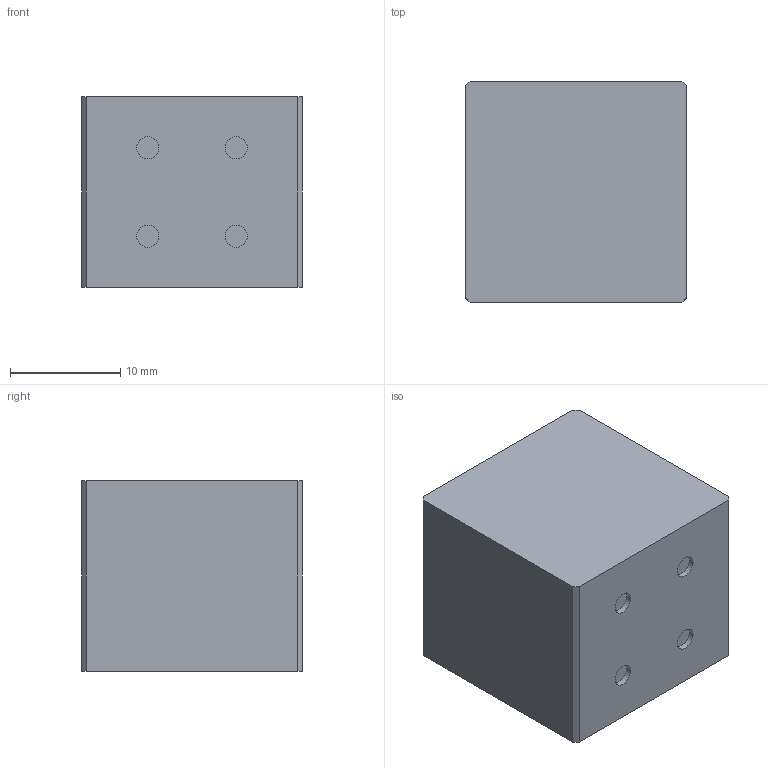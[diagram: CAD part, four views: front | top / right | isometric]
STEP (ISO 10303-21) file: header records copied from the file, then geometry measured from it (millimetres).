
FILE_DESCRIPTION(('Open CASCADE Model'),'2;1');
FILE_NAME('Open CASCADE Shape Model','2026-08-23T08:04:37',('Author'),( 'Open CASCADE'),'Open CASCADE STEP processor 7.9','Open CASCADE 7.9' ,'Unknown');
FILE_SCHEMA(('AUTOMOTIVE_DESIGN { 1 0 10303 214 1 1 1 1 }'));
Length unit declared in the file: millimetre
Products named in the file (2): =>[0:1:1:2]; COMPOUND
Assembly tree (1 placements, depth 2):
  =>[0:1:1:2]
    COMPOUND
Bounding box: 20 x 20 x 17.25 mm (x, y, z)
Volume: 6888.2 mm3; surface area: 2175.8 mm2
Topology: 1 solids, 1 shells, 18 faces, 36 edges, 24 vertices
Faces by surface type: plane 14, cylinder 4
Full cylindrical faces by diameter (mm): 2 x4
Entity records: 992 total; most frequent: CARTESIAN_POINT 176, DIRECTION 152, LINE 92, VECTOR 92, ORIENTED_EDGE 72, PCURVE 72, DEFINITIONAL_REPRESENTATION 72, EDGE_CURVE 36
